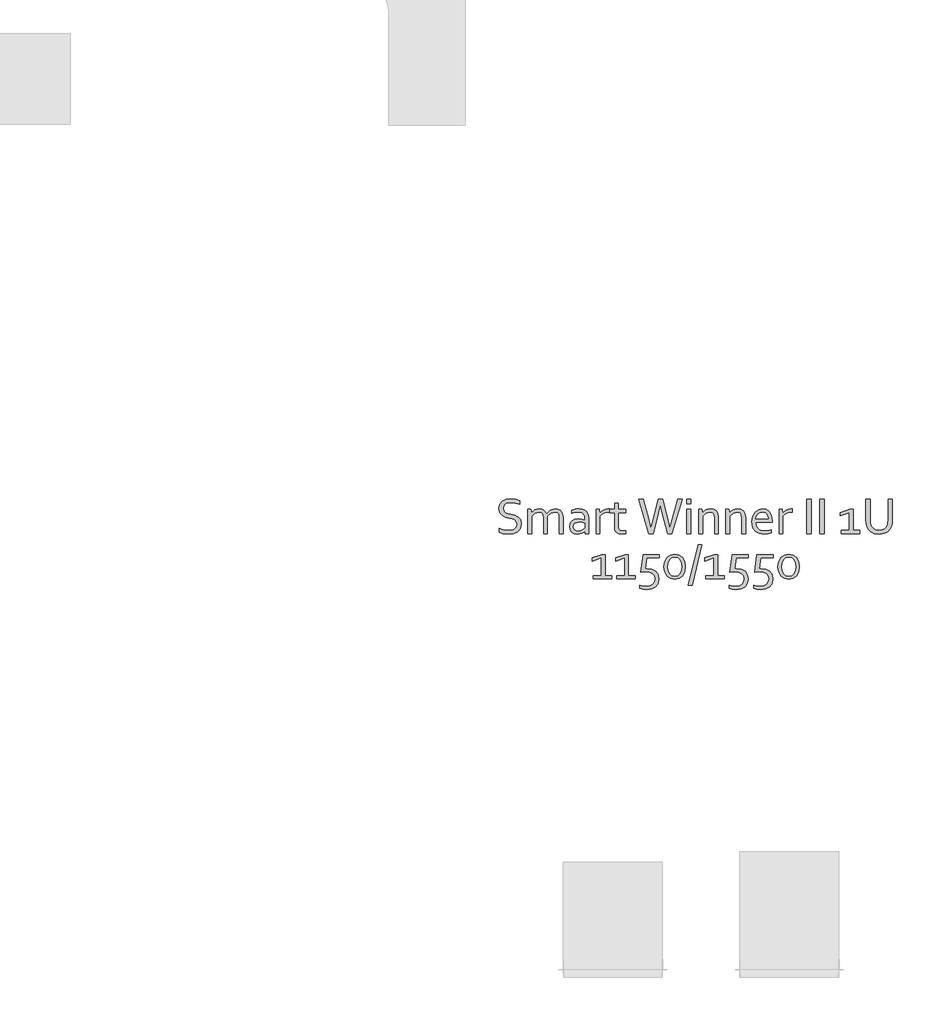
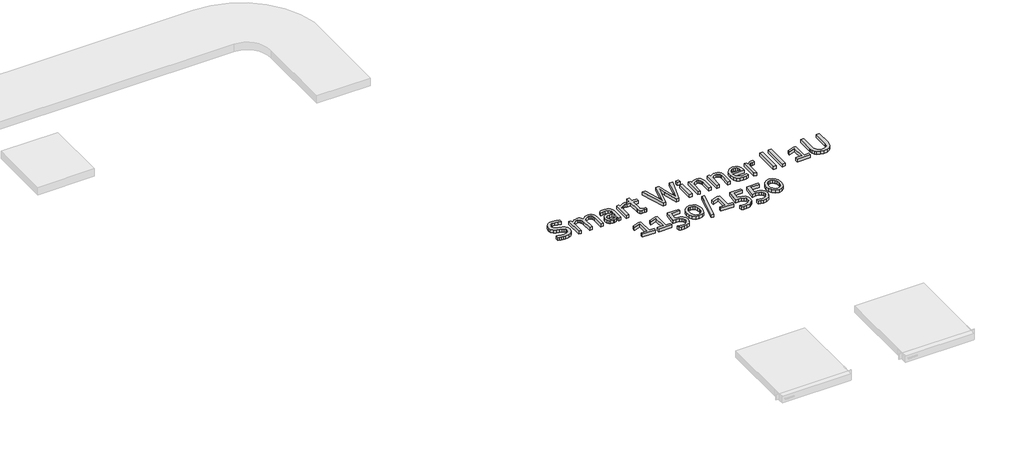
# One storey, part 10 of 10: 1 proxy.
"""IFC4 building model written with IfcOpenShell, lengths in millimetres."""

from ifc_helpers import new_model, si_unit, origin, origin_with_axes, place, context, project, spatial, polyline, outline, extrude, element, save

model = new_model("IFC4")

# Units and contexts
model_context = context("Model", 3, world=origin())
ifc_project = project(units=[si_unit("LENGTHUNIT", "METRE", prefix="MILLI")], contexts=[model_context])

# Site, building, storey
site = spatial("IfcSite", under=ifc_project)
building = spatial("IfcBuilding", under=site)
storey = spatial("IfcBuildingStorey", under=building, Name="Этаж 01", Elevation=0.0)

# Proxy
placement = place(None, origin())
element("IfcBuildingElementProxy", 1, Name="150 мм Corbel", ObjectType="150 мм Corbel", at=placement, inside=storey, context=model_context, shape_type="SweptSolid", body=[
    extrude(outline(polyline([(12357.4910444, 936.8855088), (12360.2254427, 925.8822898), (12367.5536304, 918.7072285), (12378.2287216, 914.0696889), (12390.91633, 910.6790349), (12408.3946043, 905.9321193), (12423.6853599, 898.757058), (12434.5354526, 886.8350812), (12438.6917381, 867.9786701), (12434.2073248, 847.722247), (12421.8259691, 833.7002522), (12403.2758106, 825.5626827), (12379.9349861, 822.9157851), (12368.0130093, 823.6376662), (12356.3535347, 825.5845579), (12346.3128239, 828.3845818), (12339.2471385, 831.4908583), (12339.2471385, 848.1160004), (12348.3253411, 844.681596), (12358.7598052, 842.0346984), (12369.6317731, 840.3284338), (12379.9349861, 839.7159286), (12394.9194892, 841.050315), (12407.4102209, 845.5128531), (12415.9415438, 854.0223008), (12419.0915707, 867.5411663), (12416.2915468, 878.7193868), (12408.832108, 886.0038241), (12398.0695161, 890.6851141), (12385.2287814, 894.0976432), (12367.8161326, 898.6476821), (12352.6566281, 905.7133675), (12341.9377865, 917.3509669), (12337.8908769, 935.5292472), (12342.1346632, 955.3481665), (12353.6191363, 969.0857839), (12370.1786528, 977.1139775), (12390.0413225, 979.7171247), (12412.3977635, 977.4202301), (12431.3854257, 971.4483041), (12431.3854257, 954.5169094), (12412.1571364, 960.5107106), (12390.91633, 962.9169812), (12376.1068284, 961.0794655), (12365.6942395, 955.8512958), (12359.5254368, 947.6262256), (12357.4910444, 936.8855088)])), origin_with_axes(), (0.0, 0.0, 1.0), 20.0),
    extrude(outline(polyline([(12553.492719, 825.715809), (12536.6925755, 825.715809), (12536.6925755, 894.7976492), (12535.1613124, 906.7196261), (12530.6987742, 914.8134452), (12523.7205896, 919.4509848), (12514.6423871, 920.9166224), (12497.426615, 915.6884527), (12483.4921209, 901.3164549), (12483.4921209, 825.715809), (12466.6919774, 825.715809), (12466.6919774, 932.116718), (12480.1233421, 932.116718), (12483.4483705, 917.3290917), (12490.1421777, 924.1979004), (12497.7328676, 929.8198234), (12506.9423213, 933.5823556), (12517.9236651, 934.916742), (12528.7737578, 933.489386), (12537.6113333, 929.2073182), (12549.6864365, 913.6540603), (12566.3772041, 929.2729438), (12587.6617609, 934.916742), (12599.605613, 933.3417285), (12611.199462, 927.5666792), (12619.9932872, 915.9728301), (12623.4933171, 896.9414175), (12623.4933171, 825.715809), (12606.6931735, 825.715809), (12606.6931735, 894.7976492), (12605.1619104, 906.7196261), (12600.7212475, 914.8134452), (12593.7649381, 919.4509848), (12584.6867355, 920.9166224), (12567.4490882, 915.6884527), (12553.492719, 901.3164549), (12553.492719, 825.715809)])), origin_with_axes(), (0.0, 0.0, 1.0), 20.0),
    extrude(outline(polyline([(12719.2191349, 837.4846595), (12713.4222104, 832.1689891), (12706.006522, 827.4439487), (12696.8189435, 824.1407955), (12686.1876027, 822.9157851), (12672.1656079, 825.1689293), (12661.2061393, 831.7971109), (12654.0529532, 842.450327), (12651.4935563, 856.6910736), (12654.3373306, 870.6911932), (12662.2998986, 881.1694078), (12674.6156288, 887.7975894), (12690.5188897, 890.1163592), (12705.765895, 888.6288465), (12718.2566267, 885.2600677), (12718.6941304, 892.8726328), (12718.1253756, 901.207079), (12716.2003591, 907.5727583), (12706.9252799, 917.132215), (12689.6438822, 920.9166224), (12674.4406273, 919.4291096), (12660.2873814, 915.3165745), (12660.2873814, 929.0104415), (12666.6093104, 931.3948369), (12674.287501, 933.2979781), (12682.7969487, 934.5011134), (12691.7876506, 934.916742), (12706.4221506, 933.489386), (12718.0378748, 929.2073182), (12726.7004488, 922.5736678), (12732.4754982, 914.091564), (12734.794268, 906.1946216), (12735.494274, 896.7226656), (12735.494274, 825.715809), (12721.100401, 825.715809), (12719.2191349, 837.4846595)]), holes=[polyline([(12718.6941304, 872.1349556), (12707.0784062, 874.7381028), (12692.312655, 876.1162396), (12674.6593792, 871.3474488), (12669.8851197, 865.2989597), (12668.2936998, 856.6910736), (12669.8905885, 847.9409989), (12674.2656259, 841.750321), (12680.8500571, 838.1190399), (12688.9876266, 836.9159047), (12699.5752171, 838.5565437), (12708.2815415, 842.4722021), (12714.7565968, 847.022241), (12718.6941304, 850.5660213), (12718.6941304, 872.1349556)])]), origin_with_axes(), (0.0, 0.0, 1.0), 20.0),
    extrude(outline(polyline([(12826.8888048, 920.9166224), (12813.4574401, 919.7572375), (12802.3010948, 916.2353324), (12792.8947644, 910.3946575), (12785.8947046, 902.1914624), (12785.8947046, 825.715809), (12769.0945611, 825.715809), (12769.0945611, 932.116718), (12782.0884221, 932.116718), (12785.3259497, 915.1853234), (12791.9760065, 922.9291396), (12800.4417039, 929.2073182), (12810.7667921, 933.4073541), (12822.5575178, 934.916742), (12824.8325373, 934.8729916), (12826.8888048, 934.7417405), (12826.8888048, 920.9166224)])), origin_with_axes(), (0.0, 0.0, 1.0), 20.0),
    extrude(outline(polyline([(12900.4769336, 825.3220556), (12893.6518752, 823.7470422), (12882.6705314, 822.9157851), (12868.1891577, 825.015803), (12858.1484469, 831.0096042), (12852.2421465, 840.4378098), (12850.2952548, 852.75354), (12850.2952548, 918.1165984), (12829.7763295, 918.1165984), (12829.7763295, 932.116718), (12850.2952548, 932.116718), (12850.2952548, 960.1169573), (12867.0953984, 960.1169573), (12867.0953984, 932.116718), (12898.9019201, 932.116718), (12898.9019201, 918.1165984), (12867.0953984, 918.1165984), (12867.0953984, 854.5035549), (12868.1454073, 847.4816199), (12871.4923109, 841.9034473), (12877.3767362, 838.2284159), (12886.0393102, 836.9159047), (12893.3674978, 837.4846595), (12900.4769336, 838.9284219), (12900.4769336, 825.3220556)])), origin_with_axes(), (0.0, 0.0, 1.0), 20.0),
    extrude(outline(polyline([(13053.2532389, 951.9356374), (13044.5906648, 915.5353264), (13021.1404645, 825.715809), (13002.4153045, 825.715809), (12956.6961639, 976.9171008), (12976.2963313, 976.9171008), (13000.9715422, 888.1913428), (13010.9903778, 849.7785146), (13016.2622978, 870.2318143), (13020.8779622, 887.9725909), (13043.4969055, 976.9171008), (13063.097073, 976.9171008), (13085.1472614, 887.9725909), (13094.3348398, 849.7785146), (13105.0536814, 888.1913428), (13130.2976471, 976.9171008), (13149.8978146, 976.9171008), (13103.478668, 825.715809), (13084.753508, 825.715809), (13061.7845617, 915.5353264), (13053.2532389, 951.9356374)])), origin_with_axes(), (0.0, 0.0, 1.0), 20.0),
    extrude(outline(polyline([(13169.497982, 957.3169334), (13169.497982, 976.9171008), (13186.2981256, 976.9171008), (13186.2981256, 957.3169334), (13169.497982, 957.3169334)])), origin_with_axes(), (0.0, 0.0, 1.0), 20.0),
    extrude(outline(polyline([(13169.497982, 825.715809), (13169.497982, 932.116718), (13186.2981256, 932.116718), (13186.2981256, 825.715809), (13169.497982, 825.715809)])), origin_with_axes(), (0.0, 0.0, 1.0), 20.0),
    extrude(outline(polyline([(13239.4110794, 917.3290917), (13246.1267617, 924.1979004), (13253.9799538, 929.8198234), (13263.4956601, 933.5823556), (13274.7613814, 934.916742), (13288.3677476, 932.9042248), (13299.3709666, 926.4072943), (13306.7647798, 914.7040693), (13309.4991782, 896.9414175), (13309.4991782, 825.715809), (13292.6990346, 825.715809), (13292.6990346, 894.7976492), (13291.3537106, 906.7579076), (13287.3177387, 914.8134452), (13280.7114322, 919.3908281), (13271.6551048, 920.9166224), (13254.1112049, 915.6884527), (13239.4985801, 901.3164549), (13239.4985801, 825.715809), (13222.6984366, 825.715809), (13222.6984366, 932.116718), (13236.0423006, 932.116718), (13239.4110794, 917.3290917)])), origin_with_axes(), (0.0, 0.0, 1.0), 20.0),
    extrude(outline(polyline([(13359.812108, 917.3290917), (13366.5277904, 924.1979004), (13374.3809825, 929.8198234), (13383.8966888, 933.5823556), (13395.1624101, 934.916742), (13408.7687763, 932.9042248), (13419.7719953, 926.4072943), (13427.1658085, 914.7040693), (13429.9002069, 896.9414175), (13429.9002069, 825.715809), (13413.1000633, 825.715809), (13413.1000633, 894.7976492), (13411.7547393, 906.7579076), (13407.7187673, 914.8134452), (13401.1124609, 919.3908281), (13392.0561335, 920.9166224), (13374.5122336, 915.6884527), (13359.8996088, 901.3164549), (13359.8996088, 825.715809), (13343.0994652, 825.715809), (13343.0994652, 932.116718), (13356.4433293, 932.116718), (13359.812108, 917.3290917)])), origin_with_axes(), (0.0, 0.0, 1.0), 20.0),
    extrude(outline(polyline([(13513.2446689, 836.9159047), (13529.0166787, 838.3815422), (13543.213675, 842.5159525), (13543.213675, 828.6908344), (13529.0823043, 824.4689233), (13511.0133999, 822.9157851), (13489.5538415, 825.8251849), (13472.5349461, 835.2315153), (13461.7286038, 852.2066603), (13457.9004461, 877.4725012), (13461.8817301, 902.7164669), (13472.4693206, 920.5666194), (13487.6944506, 931.3292113), (13505.6758543, 934.916742), (13522.1697452, 931.9854669), (13535.4698588, 922.7541381), (13544.3730599, 906.5008742), (13547.6324627, 882.6350453), (13547.6324627, 880.381901), (13547.5012116, 876.1162396), (13473.7818318, 876.1162396), (13476.8662331, 857.9160841), (13485.2881801, 845.7972306), (13497.800787, 839.0377978), (13513.2446689, 836.9159047)]), holes=[polyline([(13504.9320979, 920.9166224), (13493.4257496, 918.4884766), (13484.1506704, 911.8821702), (13477.7193654, 902.1039616), (13474.7005896, 890.1163592), (13530.7010681, 890.1163592), (13529.0166787, 902.2133376), (13524.0510113, 911.9915461), (13516.0009425, 918.532227), (13504.9320979, 920.9166224)])]), origin_with_axes(), (0.0, 0.0, 1.0), 20.0),
    extrude(outline(polyline([(13636.0957186, 920.9166224), (13622.6643538, 919.7572375), (13611.5080085, 916.2353324), (13602.1016781, 910.3946575), (13595.1016183, 902.1914624), (13595.1016183, 825.715809), (13578.3014748, 825.715809), (13578.3014748, 932.116718), (13591.2953358, 932.116718), (13594.5328635, 915.1853234), (13601.1829203, 922.9291396), (13609.6486176, 929.2073182), (13619.9737058, 933.4073541), (13631.7644316, 934.916742), (13634.039451, 934.8729916), (13636.0957186, 934.7417405), (13636.0957186, 920.9166224)])), origin_with_axes(), (0.0, 0.0, 1.0), 20.0),
    extrude(outline(polyline([(13701.5025274, 825.715809), (13701.5025274, 976.9171008), (13721.1026948, 976.9171008), (13721.1026948, 825.715809), (13701.5025274, 825.715809)])), origin_with_axes(), (0.0, 0.0, 1.0), 20.0),
    extrude(outline(polyline([(13757.5030058, 825.715809), (13757.5030058, 976.9171008), (13777.1031733, 976.9171008), (13777.1031733, 825.715809), (13757.5030058, 825.715809)])), origin_with_axes(), (0.0, 0.0, 1.0), 20.0),
    extrude(outline(polyline([(13889.1041302, 839.7159286), (13889.1041302, 918.1165984), (13848.6350345, 904.1164788), (13848.6350345, 918.1165984), (13891.3791497, 932.116718), (13905.9042738, 932.116718), (13905.9042738, 839.7159286), (13935.2607746, 839.7159286), (13935.2607746, 825.715809), (13853.3163245, 825.715809), (13853.3163245, 839.7159286), (13889.1041302, 839.7159286)])), origin_with_axes(), (0.0, 0.0, 1.0), 20.0),
    extrude(outline(polyline([(14020.7052546, 839.7159286), (14034.8366253, 841.640945), (14045.5992173, 847.0441162), (14053.2555327, 855.4223128), (14057.9368227, 866.3161559), (14059.4680858, 874.5849765), (14059.9055895, 883.422552), (14059.9055895, 976.9171008), (14079.505757, 976.9171008), (14079.505757, 883.5975535), (14078.9370021, 872.5068338), (14077.1432368, 861.766117), (14070.7119318, 846.3003598), (14059.5555865, 833.9846296), (14043.0616956, 825.8470601), (14020.4865027, 822.9157851), (13998.7425669, 825.6283082), (13982.6861798, 833.1314973), (13971.7048359, 844.5503449), (13965.0547791, 858.9660931), (13962.6266334, 871.0411962), (13961.9047522, 883.5975535), (13961.9047522, 976.9171008), (13981.5049197, 976.9171008), (13981.5049197, 883.422552), (13982.2049257, 873.0099631), (13984.4361947, 863.2536297), (13989.5495197, 853.4754212), (13997.1894287, 846.0159824), (14007.5199857, 841.290942), (14020.7052546, 839.7159286)])), origin_with_axes(), (0.0, 0.0, 1.0), 20.0),
    extrude(outline(polyline([(12791.4947524, 639.315498), (12791.4947524, 717.7161678), (12751.0256567, 703.7160482), (12751.0256567, 717.7161678), (12793.7697719, 731.7162874), (12808.294896, 731.7162874), (12808.294896, 639.315498), (12837.6513968, 639.315498), (12837.6513968, 625.3153784), (12755.7069467, 625.3153784), (12755.7069467, 639.315498), (12791.4947524, 639.315498)])), origin_with_axes(), (0.0, 0.0, 1.0), 20.0),
    extrude(outline(polyline([(12895.0956376, 639.315498), (12895.0956376, 717.7161678), (12854.6265418, 703.7160482), (12854.6265418, 717.7161678), (12897.370657, 731.7162874), (12911.8957811, 731.7162874), (12911.8957811, 639.315498), (12941.2522819, 639.315498), (12941.2522819, 625.3153784), (12859.3078318, 625.3153784), (12859.3078318, 639.315498), (12895.0956376, 639.315498)])), origin_with_axes(), (0.0, 0.0, 1.0), 20.0),
    extrude(outline(polyline([(13046.2969294, 625.4466295), (13042.8187747, 606.3933417), (13032.6249376, 591.2775876), (13015.693543, 581.3025023), (12992.4839697, 577.7149717), (12976.2307058, 579.2024844), (12962.3399621, 583.7525233), (12962.3399621, 597.3151391), (12978.0244711, 592.8744762), (12991.6964629, 591.7150913), (13008.2997298, 594.3401137), (13020.0685803, 601.4932998), (13027.1342657, 612.0371399), (13029.4967859, 624.6591228), (13027.0030146, 638.5936168), (13019.1935729, 648.3718254), (13005.5434562, 654.1906251), (12985.4401595, 656.1156415), (12965.6649905, 654.9781318), (12976.2963313, 731.7162874), (13047.3469384, 731.7162874), (13047.3469384, 717.7161678), (12993.0964749, 717.7161678), (12986.8401714, 669.8970093), (12993.0964749, 670.1157611), (13015.8466693, 667.0969853), (13032.5374369, 658.3687858), (13042.7968995, 644.3686662), (13046.2969294, 625.4466295)])), origin_with_axes(), (0.0, 0.0, 1.0), 20.0),
    extrude(outline(polyline([(13163.8979342, 678.3845818), (13160.6822817, 656.290643), (13151.3415769, 638.5498664), (13136.4445746, 626.7810159), (13116.3850282, 622.5153544), (13095.9317285, 626.7810159), (13080.9691007, 638.5498664), (13071.8033973, 656.290643), (13068.6971208, 678.3845818), (13071.9127733, 700.6316469), (13081.2534781, 718.438049), (13096.2161059, 730.2506499), (13116.2975275, 734.5163114), (13136.6633265, 730.2506499), (13151.6259543, 718.438049), (13160.7916576, 700.6316469), (13163.8979342, 678.3845818)]), holes=[polyline([(13147.0977906, 678.3845818), (13144.910272, 696.0378576), (13138.7195941, 709.2723457), (13129.0507615, 717.6067919), (13116.2975275, 720.5161917), (13103.5442935, 717.6067919), (13093.8317105, 709.2723457), (13087.6410327, 696.0378576), (13085.4972643, 678.3845818), (13087.684783, 660.8844323), (13093.8754609, 647.6936946), (13103.6099191, 639.4248739), (13116.4287786, 636.5154741), (13129.1601374, 639.4248739), (13138.82897, 647.6936946), (13144.9540223, 660.8844323), (13147.0977906, 678.3845818)])]), origin_with_axes(), (0.0, 0.0, 1.0), 20.0),
    extrude(outline(polyline([(13177.1105471, 597.3151391), (13219.7234111, 776.5166702), (13236.3048028, 776.5166702), (13193.6919387, 597.3151391), (13177.1105471, 597.3151391)])), origin_with_axes(), (0.0, 0.0, 1.0), 20.0),
    extrude(outline(polyline([(13289.8990107, 639.315498), (13289.8990107, 717.7161678), (13249.429915, 703.7160482), (13249.429915, 717.7161678), (13292.1740302, 731.7162874), (13306.6991543, 731.7162874), (13306.6991543, 639.315498), (13336.0556551, 639.315498), (13336.0556551, 625.3153784), (13254.1112049, 625.3153784), (13254.1112049, 639.315498), (13289.8990107, 639.315498)])), origin_with_axes(), (0.0, 0.0, 1.0), 20.0),
    extrude(outline(polyline([(13441.1003026, 625.4466295), (13437.6221478, 606.3933417), (13427.4283107, 591.2775876), (13410.4969161, 581.3025023), (13387.2873428, 577.7149717), (13371.0340789, 579.2024844), (13357.1433352, 583.7525233), (13357.1433352, 597.3151391), (13372.8278442, 592.8744762), (13386.4998361, 591.7150913), (13403.1031029, 594.3401137), (13414.8719535, 601.4932998), (13421.9376388, 612.0371399), (13424.300159, 624.6591228), (13421.8063877, 638.5936168), (13413.996946, 648.3718254), (13400.3468294, 654.1906251), (13380.2435326, 656.1156415), (13360.4683636, 654.9781318), (13371.0997045, 731.7162874), (13442.1503115, 731.7162874), (13442.1503115, 717.7161678), (13387.899848, 717.7161678), (13381.6435446, 669.8970093), (13387.899848, 670.1157611), (13410.6500424, 667.0969853), (13427.34081, 658.3687858), (13437.6002726, 644.3686662), (13441.1003026, 625.4466295)])), origin_with_axes(), (0.0, 0.0, 1.0), 20.0),
    extrude(outline(polyline([(13550.3012355, 625.4466295), (13546.8230808, 606.3933417), (13536.6292437, 591.2775876), (13519.6978491, 581.3025023), (13496.4882758, 577.7149717), (13480.2350119, 579.2024844), (13466.3442682, 583.7525233), (13466.3442682, 597.3151391), (13482.0287772, 592.8744762), (13495.700769, 591.7150913), (13512.3040359, 594.3401137), (13524.0728865, 601.4932998), (13531.1385718, 612.0371399), (13533.501092, 624.6591228), (13531.0073207, 638.5936168), (13523.197879, 648.3718254), (13509.5477624, 654.1906251), (13489.4444656, 656.1156415), (13469.6692966, 654.9781318), (13480.3006375, 731.7162874), (13551.3512445, 731.7162874), (13551.3512445, 717.7161678), (13497.100781, 717.7161678), (13490.8444776, 669.8970093), (13497.100781, 670.1157611), (13519.8509754, 667.0969853), (13536.541743, 658.3687858), (13546.8012056, 644.3686662), (13550.3012355, 625.4466295)])), origin_with_axes(), (0.0, 0.0, 1.0), 20.0),
    extrude(outline(polyline([(13667.9022403, 678.3845818), (13664.6865878, 656.290643), (13655.345883, 638.5498664), (13640.4488808, 626.7810159), (13620.3893344, 622.5153544), (13599.9360346, 626.7810159), (13584.9734068, 638.5498664), (13575.8077035, 656.290643), (13572.7014269, 678.3845818), (13575.9170794, 700.6316469), (13585.2577842, 718.438049), (13600.220412, 730.2506499), (13620.3018336, 734.5163114), (13640.6676326, 730.2506499), (13655.6302605, 718.438049), (13664.7959638, 700.6316469), (13667.9022403, 678.3845818)]), holes=[polyline([(13651.1020968, 678.3845818), (13648.9145781, 696.0378576), (13642.7239002, 709.2723457), (13633.0550676, 717.6067919), (13620.3018336, 720.5161917), (13607.5485997, 717.6067919), (13597.8360167, 709.2723457), (13591.6453388, 696.0378576), (13589.5015705, 678.3845818), (13591.6890892, 660.8844323), (13597.879767, 647.6936946), (13607.6142252, 639.4248739), (13620.4330847, 636.5154741), (13633.1644435, 639.4248739), (13642.8332761, 647.6936946), (13648.9583285, 660.8844323), (13651.1020968, 678.3845818)])]), origin_with_axes(), (0.0, 0.0, 1.0), 20.0),
])

save(model, "model.ifc")
